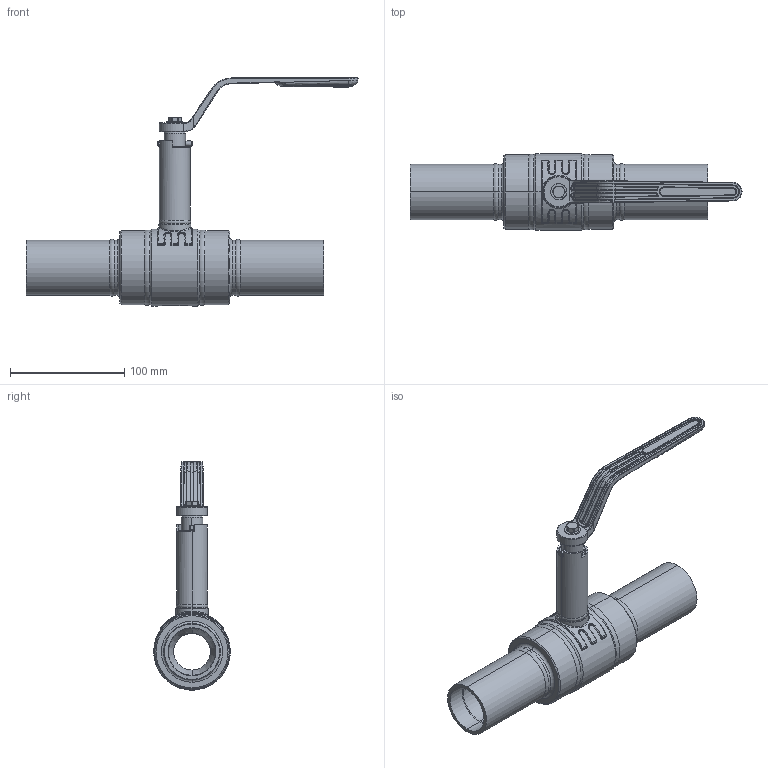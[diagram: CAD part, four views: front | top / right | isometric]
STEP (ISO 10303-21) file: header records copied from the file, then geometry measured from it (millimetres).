
FILE_DESCRIPTION((''),'2;1');
FILE_NAME('KHMO-S-R-H-040R032P04_SW0001','2022-10-18T15:43:23',('jeitlers'),('KLINGER'),'CREO PARAMETRIC BY PTC INC, 2020184','CREO PARAMETRIC BY PTC INC, 2020184','');
FILE_SCHEMA(('AUTOMOTIVE_DESIGN { 1 0 10303 214 1 1 1 1 }'));
Length unit declared in the file: millimetre
Products named in the file (1): KHMO-S-R-H-040R032P04_SW0001
Bounding box: 290 x 67 x 199.3 mm (x, y, z)
Volume: 359528.6 mm3; surface area: 132867.3 mm2
Topology: 1 solids, 1 shells, 716 faces, 1617 edges, 922 vertices
Faces by surface type: cylinder 229, bspline 142, plane 125, torus 109, cone 98, sphere 8, extrusion 5
Entity records: 39942 total; most frequent: CARTESIAN_POINT 23625, ORIENTED_EDGE 3230, DIRECTION 3193, EDGE_CURVE 1615, AXIS2_PLACEMENT_3D 1335, VERTEX_POINT 922, EDGE_LOOP 757, CIRCLE 753
